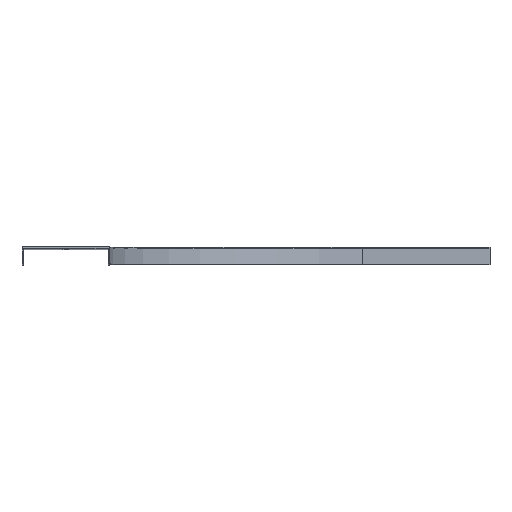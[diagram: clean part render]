
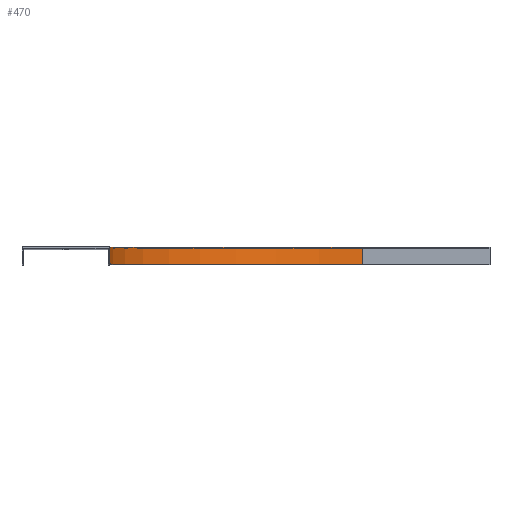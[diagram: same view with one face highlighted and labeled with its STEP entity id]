
A CAD part, top view. The second image highlights one B-rep face of the part: STEP entity #470.
In plain terms, the highlighted cylindrical face has radius 298.5 mm (diameter 597 mm), a partial arc.
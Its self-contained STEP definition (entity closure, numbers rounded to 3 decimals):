
#15 = EDGE_LOOP ( 'NONE', ( #149, #60, #690, #487 ) ) ;
#21 = CARTESIAN_POINT ( 'NONE',  ( 0., -20., 0. ) ) ;
#44 = CARTESIAN_POINT ( 'NONE',  ( 0., -20., 0. ) ) ;
#60 = ORIENTED_EDGE ( 'NONE', *, *, #992, .F. ) ;
#109 = AXIS2_PLACEMENT_3D ( 'NONE', #374, #730, #1074 ) ;
#133 = CYLINDRICAL_SURFACE ( 'NONE', #271, 298.5 ) ;
#149 = ORIENTED_EDGE ( 'NONE', *, *, #615, .F. ) ;
#179 = EDGE_CURVE ( 'NONE', #530, #952, #585, .T. ) ;
#225 = DIRECTION ( 'NONE',  ( 0., 1., 0. ) ) ;
#264 = VERTEX_POINT ( 'NONE', #361 ) ;
#270 = LINE ( 'NONE', #1130, #719 ) ;
#271 = AXIS2_PLACEMENT_3D ( 'NONE', #44, #225, #488 ) ;
#287 = LINE ( 'NONE', #995, #916 ) ;
#289 = DIRECTION ( 'NONE',  ( 0., -1., 0. ) ) ;
#341 = VERTEX_POINT ( 'NONE', #958 ) ;
#361 = CARTESIAN_POINT ( 'NONE',  ( 0., 0., -298.5 ) ) ;
#374 = CARTESIAN_POINT ( 'NONE',  ( 0., 0., 0. ) ) ;
#458 = DIRECTION ( 'NONE',  ( 0., 0., -1. ) ) ;
#470 = ADVANCED_FACE ( 'NONE', ( #656 ), #133, .F. ) ;
#487 = ORIENTED_EDGE ( 'NONE', *, *, #764, .T. ) ;
#488 = DIRECTION ( 'NONE',  ( 0., 0., 1. ) ) ;
#530 = VERTEX_POINT ( 'NONE', #891 ) ;
#583 = CIRCLE ( 'NONE', #109, 298.5 ) ;
#585 = CIRCLE ( 'NONE', #725, 298.5 ) ;
#615 = EDGE_CURVE ( 'NONE', #341, #264, #583, .T. ) ;
#656 = FACE_OUTER_BOUND ( 'NONE', #15, .T. ) ;
#690 = ORIENTED_EDGE ( 'NONE', *, *, #179, .T. ) ;
#719 = VECTOR ( 'NONE', #1073, 1000. ) ;
#725 = AXIS2_PLACEMENT_3D ( 'NONE', #21, #289, #458 ) ;
#730 = DIRECTION ( 'NONE',  ( 0., -1., 0. ) ) ;
#754 = CARTESIAN_POINT ( 'NONE',  ( 0., -20., -298.5 ) ) ;
#764 = EDGE_CURVE ( 'NONE', #952, #264, #270, .T. ) ;
#891 = CARTESIAN_POINT ( 'NONE',  ( -298.5, -20., 0. ) ) ;
#907 = DIRECTION ( 'NONE',  ( 0., 1., 0. ) ) ;
#916 = VECTOR ( 'NONE', #907, 1000. ) ;
#952 = VERTEX_POINT ( 'NONE', #754 ) ;
#958 = CARTESIAN_POINT ( 'NONE',  ( -298.5, 0., 0. ) ) ;
#992 = EDGE_CURVE ( 'NONE', #530, #341, #287, .T. ) ;
#995 = CARTESIAN_POINT ( 'NONE',  ( -298.5, -20., 0. ) ) ;
#1073 = DIRECTION ( 'NONE',  ( 0., 1., 0. ) ) ;
#1074 = DIRECTION ( 'NONE',  ( 0., 0., -1. ) ) ;
#1130 = CARTESIAN_POINT ( 'NONE',  ( 0., -20., -298.5 ) ) ;
